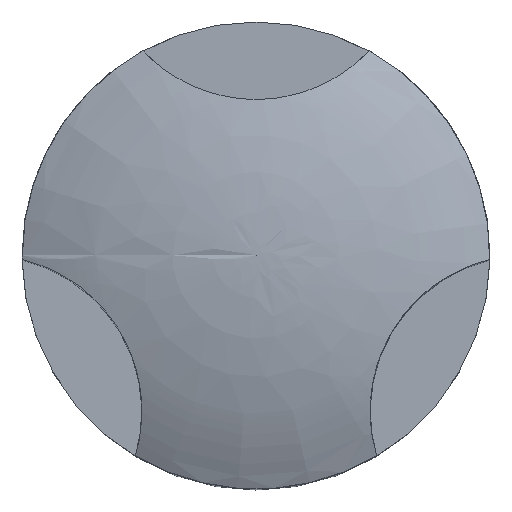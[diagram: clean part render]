
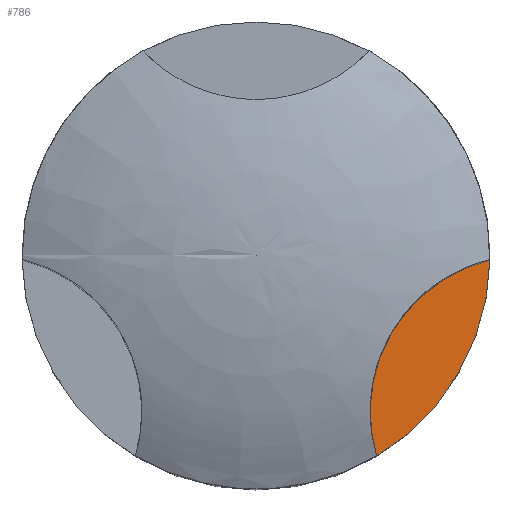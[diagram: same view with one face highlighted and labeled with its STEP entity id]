
A CAD part, top view. The second image highlights one B-rep face of the part: STEP entity #786.
In plain terms, the highlighted planar face has unit normal (0, 0, 1).
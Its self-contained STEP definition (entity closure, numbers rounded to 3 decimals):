
#32 = CYLINDRICAL_SURFACE('',#33,9.);
#33 = AXIS2_PLACEMENT_3D('',#34,#35,#36);
#34 = CARTESIAN_POINT('',(0.,0.,0.));
#35 = DIRECTION('',(-0.,-0.,-1.));
#36 = DIRECTION('',(1.,0.,0.));
#364 = VERTEX_POINT('',#365);
#365 = CARTESIAN_POINT('',(4.641,-7.711,3.));
#379 = CYLINDRICAL_SURFACE('',#380,6.);
#380 = AXIS2_PLACEMENT_3D('',#381,#382,#383);
#381 = CARTESIAN_POINT('',(10.392,-6.,18.));
#382 = DIRECTION('',(0.,0.,1.));
#383 = DIRECTION('',(-0.5,-0.866,0.));
#391 = EDGE_CURVE('',#392,#364,#394,.T.);
#392 = VERTEX_POINT('',#393);
#393 = CARTESIAN_POINT('',(8.999,-0.164,3.));
#394 = SURFACE_CURVE('',#395,(#400,#407),.PCURVE_S1.);
#395 = CIRCLE('',#396,9.);
#396 = AXIS2_PLACEMENT_3D('',#397,#398,#399);
#397 = CARTESIAN_POINT('',(0.,0.,3.));
#398 = DIRECTION('',(0.,0.,-1.));
#399 = DIRECTION('',(1.,0.,0.));
#400 = PCURVE('',#32,#401);
#401 = DEFINITIONAL_REPRESENTATION('',(#402),#406);
#402 = LINE('',#403,#404);
#403 = CARTESIAN_POINT('',(-6.283,-3.));
#404 = VECTOR('',#405,1.);
#405 = DIRECTION('',(1.,-0.));
#406 = ( GEOMETRIC_REPRESENTATION_CONTEXT(2) 
PARAMETRIC_REPRESENTATION_CONTEXT() REPRESENTATION_CONTEXT('2D SPACE',''
  ) );
#407 = PCURVE('',#408,#413);
#408 = PLANE('',#409);
#409 = AXIS2_PLACEMENT_3D('',#410,#411,#412);
#410 = CARTESIAN_POINT('',(10.392,-6.,3.));
#411 = DIRECTION('',(0.,0.,1.));
#412 = DIRECTION('',(-0.5,-0.866,0.));
#413 = DEFINITIONAL_REPRESENTATION('',(#414),#422);
#414 = ( BOUNDED_CURVE() B_SPLINE_CURVE(2,(#415,#416,#417,#418,#419,#420
,#421),.UNSPECIFIED.,.T.,.F.) B_SPLINE_CURVE_WITH_KNOTS((1,2,2,2,2,1),(
    -2.094,0.,2.094,4.189,6.283,
8.378),.UNSPECIFIED.) CURVE() GEOMETRIC_REPRESENTATION_ITEM() 
RATIONAL_B_SPLINE_CURVE((1.,0.5,1.,0.5,1.,0.5,1.)) REPRESENTATION_ITEM(
  '') );
#415 = CARTESIAN_POINT('',(-4.5,-4.206));
#416 = CARTESIAN_POINT('',(9.,3.588));
#417 = CARTESIAN_POINT('',(9.,-12.));
#418 = CARTESIAN_POINT('',(9.,-27.588));
#419 = CARTESIAN_POINT('',(-4.5,-19.794));
#420 = CARTESIAN_POINT('',(-18.,-12.));
#421 = CARTESIAN_POINT('',(-4.5,-4.206));
#422 = ( GEOMETRIC_REPRESENTATION_CONTEXT(2) 
PARAMETRIC_REPRESENTATION_CONTEXT() REPRESENTATION_CONTEXT('2D SPACE',''
  ) );
#567 = EDGE_CURVE('',#392,#364,#568,.T.);
#568 = SURFACE_CURVE('',#569,(#574,#581),.PCURVE_S1.);
#569 = CIRCLE('',#570,6.);
#570 = AXIS2_PLACEMENT_3D('',#571,#572,#573);
#571 = CARTESIAN_POINT('',(10.392,-6.,3.));
#572 = DIRECTION('',(0.,0.,1.));
#573 = DIRECTION('',(-0.5,-0.866,0.));
#574 = PCURVE('',#379,#575);
#575 = DEFINITIONAL_REPRESENTATION('',(#576),#580);
#576 = LINE('',#577,#578);
#577 = CARTESIAN_POINT('',(0.,-15.));
#578 = VECTOR('',#579,1.);
#579 = DIRECTION('',(1.,0.));
#580 = ( GEOMETRIC_REPRESENTATION_CONTEXT(2) 
PARAMETRIC_REPRESENTATION_CONTEXT() REPRESENTATION_CONTEXT('2D SPACE',''
  ) );
#581 = PCURVE('',#408,#582);
#582 = DEFINITIONAL_REPRESENTATION('',(#583),#587);
#583 = CIRCLE('',#584,6.);
#584 = AXIS2_PLACEMENT_2D('',#585,#586);
#585 = CARTESIAN_POINT('',(0.,0.));
#586 = DIRECTION('',(1.,0.));
#587 = ( GEOMETRIC_REPRESENTATION_CONTEXT(2) 
PARAMETRIC_REPRESENTATION_CONTEXT() REPRESENTATION_CONTEXT('2D SPACE',''
  ) );
#786 = ADVANCED_FACE('',(#787),#408,.T.);
#787 = FACE_BOUND('',#788,.T.);
#788 = EDGE_LOOP('',(#789,#790));
#789 = ORIENTED_EDGE('',*,*,#391,.F.);
#790 = ORIENTED_EDGE('',*,*,#567,.T.);
